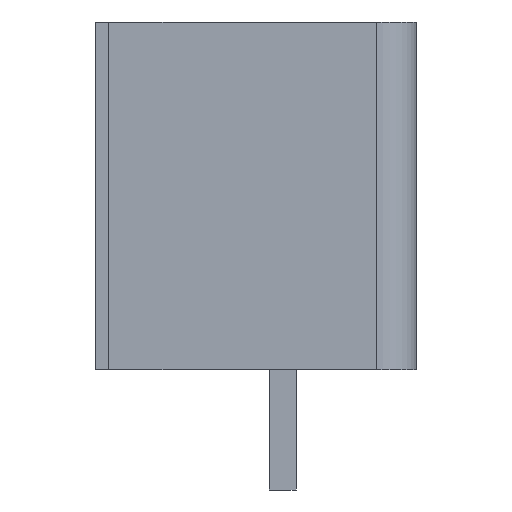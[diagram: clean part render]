
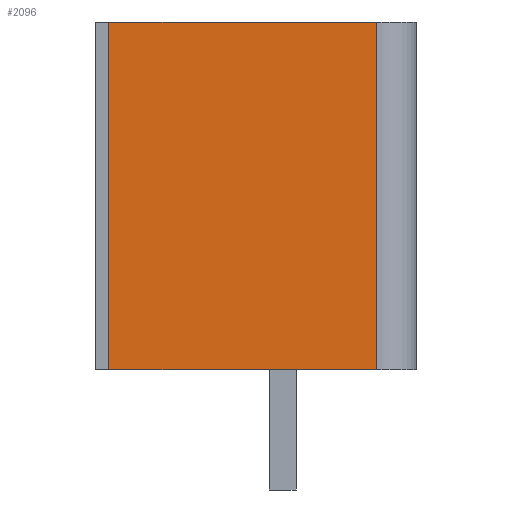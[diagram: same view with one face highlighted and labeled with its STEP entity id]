
A CAD part, left-side view. The second image highlights one B-rep face of the part: STEP entity #2096.
In plain terms, the highlighted planar face has unit normal (-1, 0, 0).
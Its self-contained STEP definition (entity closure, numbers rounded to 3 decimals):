
#16 = VERTEX_POINT ( 'NONE', #1638 ) ;
#205 = FACE_OUTER_BOUND ( 'NONE', #2417, .T. ) ;
#284 = ORIENTED_EDGE ( 'NONE', *, *, #1136, .F. ) ;
#285 = ORIENTED_EDGE ( 'NONE', *, *, #1137, .T. ) ;
#286 = ORIENTED_EDGE ( 'NONE', *, *, #1138, .F. ) ;
#287 = ORIENTED_EDGE ( 'NONE', *, *, #1139, .F. ) ;
#572 = PLANE ( 'NONE',  #816 ) ;
#573 = CARTESIAN_POINT ( 'NONE',  ( 0., 24., 0. ) ) ;
#574 = DIRECTION ( 'NONE',  ( 1., 0., 0. ) ) ;
#575 = DIRECTION ( 'NONE',  ( 0., 0., -1. ) ) ;
#816 = AXIS2_PLACEMENT_3D ( 'NONE', #573, #574, #575 ) ;
#1136 = EDGE_CURVE ( 'NONE', #1831, #1820, #1368, .T. ) ;
#1137 = EDGE_CURVE ( 'NONE', #1831, #1845, #1371, .T. ) ;
#1138 = EDGE_CURVE ( 'NONE', #16, #1845, #1373, .T. ) ;
#1139 = EDGE_CURVE ( 'NONE', #1820, #16, #1375, .T. ) ;
#1368 = LINE ( 'NONE', #2238, #1370 ) ;
#1370 = VECTOR ( 'NONE', #2191, 1000. ) ;
#1371 = LINE ( 'NONE', #2123, #1372 ) ;
#1372 = VECTOR ( 'NONE', #2108, 1000. ) ;
#1373 = LINE ( 'NONE', #2398, #1374 ) ;
#1374 = VECTOR ( 'NONE', #2223, 1000. ) ;
#1375 = LINE ( 'NONE', #2234, #1376 ) ;
#1376 = VECTOR ( 'NONE', #2235, 1000. ) ;
#1638 = CARTESIAN_POINT ( 'NONE',  ( 0., 23., 0. ) ) ;
#1820 = VERTEX_POINT ( 'NONE', #2360 ) ;
#1831 = VERTEX_POINT ( 'NONE', #2349 ) ;
#1845 = VERTEX_POINT ( 'NONE', #2256 ) ;
#2096 = ADVANCED_FACE ( 'NONE', ( #205 ), #572, .F. ) ;
#2108 = DIRECTION ( 'NONE',  ( 0., 0., 1. ) ) ;
#2123 = CARTESIAN_POINT ( 'NONE',  ( 0., 3., 0. ) ) ;
#2191 = DIRECTION ( 'NONE',  ( 0., 1., 0. ) ) ;
#2223 = DIRECTION ( 'NONE',  ( 0., -1., 0. ) ) ;
#2234 = CARTESIAN_POINT ( 'NONE',  ( 0., 23., -35. ) ) ;
#2235 = DIRECTION ( 'NONE',  ( 0., 0., 1. ) ) ;
#2238 = CARTESIAN_POINT ( 'NONE',  ( 0., 0., -26. ) ) ;
#2256 = CARTESIAN_POINT ( 'NONE',  ( 0., 3., 0. ) ) ;
#2349 = CARTESIAN_POINT ( 'NONE',  ( 0., 3., -26. ) ) ;
#2360 = CARTESIAN_POINT ( 'NONE',  ( 0., 23., -26. ) ) ;
#2398 = CARTESIAN_POINT ( 'NONE',  ( 0., 24., 0. ) ) ;
#2417 = EDGE_LOOP ( 'NONE', ( #284, #285, #286, #287 ) ) ;
